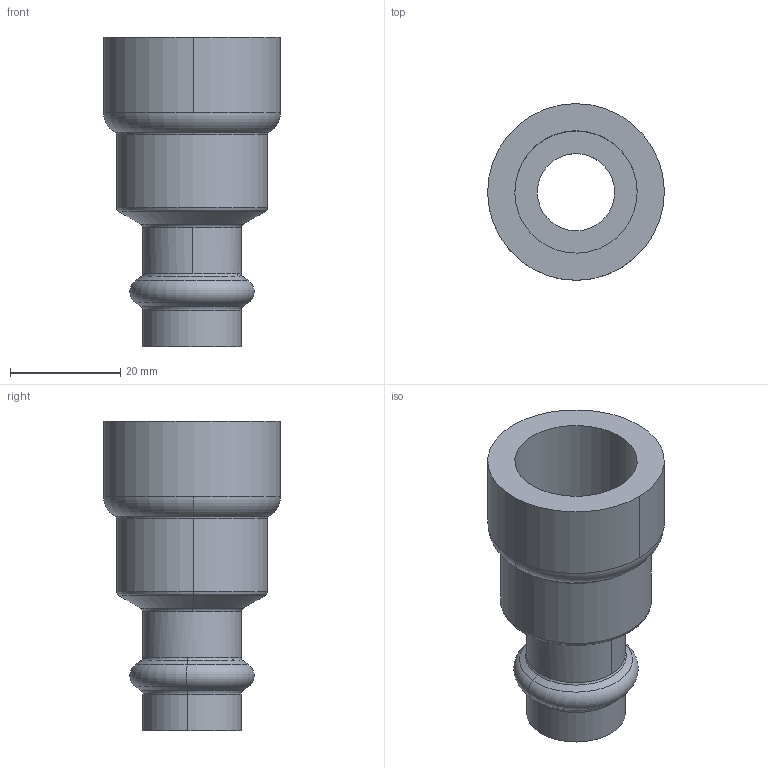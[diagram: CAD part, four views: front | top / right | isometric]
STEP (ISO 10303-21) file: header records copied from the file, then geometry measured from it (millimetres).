
FILE_DESCRIPTION(('Creo Elements/Direct Modeling STEP Export'),'2;1');
FILE_NAME('C9440_1-2_15.stp','2020-07-20T10:31:43',(''),(''),'PTC Creo Elements/Direct Modeling STEP processor for AP214 (Solid Model)','PTC Creo Elements/Direct Modeling 19.0C 15-Aug-2015 (C) Parametric Technology GmbH','');
FILE_SCHEMA(('AUTOMOTIVE_DESIGN { 1 0 10303 214 1 1 1 1 }'));
Length unit declared in the file: millimetre
Products named in the file (2): C9440_1-2_15
Assembly tree (1 placements, depth 2):
  C9440_1-2_15
    C9440_1-2_15
Bounding box: 32.05 x 32.05 x 56.12 mm (x, y, z)
Volume: 13209.7 mm3; surface area: 8864.2 mm2
Topology: 1 solids, 1 shells, 38 faces, 87 edges, 53 vertices
Faces by surface type: torus 14, cylinder 14, cone 6, plane 4
Entity records: 987 total; most frequent: ORIENTED_EDGE 174, DIRECTION 170, CARTESIAN_POINT 148, EDGE_CURVE 87, AXIS2_PLACEMENT_3D 75, VERTEX_POINT 53, EDGE_LOOP 42, FACE_OUTER_BOUND 38
